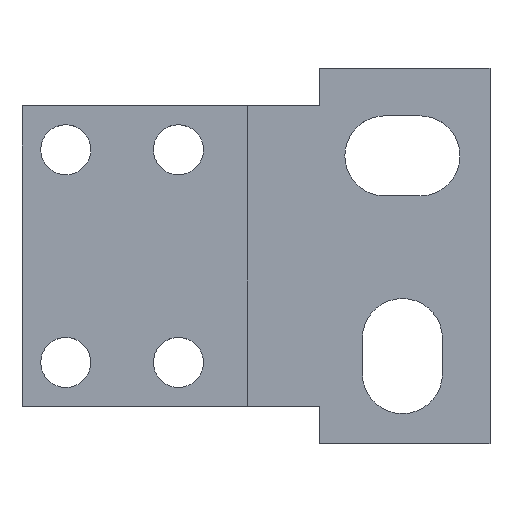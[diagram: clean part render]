
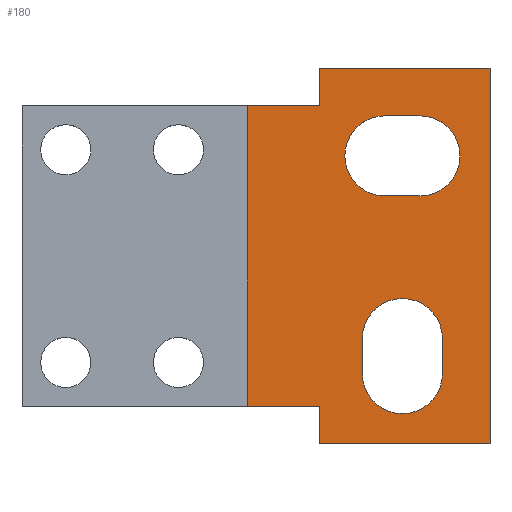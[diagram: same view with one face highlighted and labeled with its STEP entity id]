
A CAD part, top view. The second image highlights one B-rep face of the part: STEP entity #180.
In plain terms, the highlighted planar face has unit normal (0, 0, 1).
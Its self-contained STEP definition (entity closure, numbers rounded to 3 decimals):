
#1 = VERTEX_POINT ( 'NONE', #424 ) ;
#14 = VERTEX_POINT ( 'NONE', #421 ) ;
#15 = EDGE_CURVE ( 'NONE', #17, #14, #410, .T. ) ;
#17 = VERTEX_POINT ( 'NONE', #399 ) ;
#22 = VERTEX_POINT ( 'NONE', #451 ) ;
#28 = EDGE_CURVE ( 'NONE', #22, #17, #434, .T. ) ;
#32 = VERTEX_POINT ( 'NONE', #542 ) ;
#33 = EDGE_CURVE ( 'NONE', #32, #53, #472, .T. ) ;
#34 = VERTEX_POINT ( 'NONE', #541 ) ;
#35 = EDGE_CURVE ( 'NONE', #1, #34, #655, .T. ) ;
#40 = EDGE_CURVE ( 'NONE', #78, #159, #470, .T. ) ;
#44 = VERTEX_POINT ( 'NONE', #495 ) ;
#47 = EDGE_CURVE ( 'NONE', #44, #32, #502, .T. ) ;
#53 = VERTEX_POINT ( 'NONE', #561 ) ;
#68 = EDGE_CURVE ( 'NONE', #53, #22, #487, .T. ) ;
#78 = VERTEX_POINT ( 'NONE', #506 ) ;
#159 = VERTEX_POINT ( 'NONE', #688 ) ;
#167 = EDGE_CURVE ( 'NONE', #182, #191, #681, .T. ) ;
#168 = ORIENTED_EDGE ( 'NONE', *, *, #167, .F. ) ;
#169 = EDGE_CURVE ( 'NONE', #302, #182, #666, .T. ) ;
#170 = ORIENTED_EDGE ( 'NONE', *, *, #169, .F. ) ;
#171 = EDGE_CURVE ( 'NONE', #309, #302, #674, .T. ) ;
#172 = ORIENTED_EDGE ( 'NONE', *, *, #171, .F. ) ;
#173 = ORIENTED_EDGE ( 'NONE', *, *, #40, .F. ) ;
#176 = ORIENTED_EDGE ( 'NONE', *, *, #359, .F. ) ;
#177 = EDGE_LOOP ( 'NONE', ( #173, #176, #254, #257, #256 ) ) ;
#179 = EDGE_CURVE ( 'NONE', #191, #309, #731, .T. ) ;
#180 = ADVANCED_FACE ( 'NONE', ( #729, #667, #735 ), #733, .T. ) ;
#181 = ORIENTED_EDGE ( 'NONE', *, *, #179, .F. ) ;
#182 = VERTEX_POINT ( 'NONE', #663 ) ;
#191 = VERTEX_POINT ( 'NONE', #732 ) ;
#247 = ORIENTED_EDGE ( 'NONE', *, *, #287, .T. ) ;
#248 = EDGE_CURVE ( 'NONE', #159, #258, #763, .T. ) ;
#249 = ORIENTED_EDGE ( 'NONE', *, *, #28, .T. ) ;
#250 = ORIENTED_EDGE ( 'NONE', *, *, #313, .T. ) ;
#251 = ORIENTED_EDGE ( 'NONE', *, *, #289, .T. ) ;
#252 = ORIENTED_EDGE ( 'NONE', *, *, #33, .T. ) ;
#254 = ORIENTED_EDGE ( 'NONE', *, *, #35, .F. ) ;
#255 = ORIENTED_EDGE ( 'NONE', *, *, #68, .T. ) ;
#256 = ORIENTED_EDGE ( 'NONE', *, *, #248, .F. ) ;
#257 = ORIENTED_EDGE ( 'NONE', *, *, #261, .F. ) ;
#258 = VERTEX_POINT ( 'NONE', #802 ) ;
#259 = ORIENTED_EDGE ( 'NONE', *, *, #47, .T. ) ;
#260 = EDGE_LOOP ( 'NONE', ( #247, #250, #259, #252, #255, #249, #262, #251 ) ) ;
#261 = EDGE_CURVE ( 'NONE', #258, #1, #854, .T. ) ;
#262 = ORIENTED_EDGE ( 'NONE', *, *, #15, .T. ) ;
#285 = VERTEX_POINT ( 'NONE', #969 ) ;
#287 = EDGE_CURVE ( 'NONE', #285, #316, #936, .T. ) ;
#289 = EDGE_CURVE ( 'NONE', #14, #285, #963, .T. ) ;
#298 = EDGE_LOOP ( 'NONE', ( #181, #168, #170, #172 ) ) ;
#302 = VERTEX_POINT ( 'NONE', #937 ) ;
#309 = VERTEX_POINT ( 'NONE', #987 ) ;
#313 = EDGE_CURVE ( 'NONE', #316, #44, #989, .T. ) ;
#316 = VERTEX_POINT ( 'NONE', #1004 ) ;
#359 = EDGE_CURVE ( 'NONE', #34, #78, #1007, .T. ) ;
#399 = CARTESIAN_POINT ( 'NONE',  ( 0., 7.5, 0. ) ) ;
#400 = DIRECTION ( 'NONE',  ( -1., 0., 0. ) ) ;
#401 = VECTOR ( 'NONE', #400, 1000. ) ;
#409 = CARTESIAN_POINT ( 'NONE',  ( 0., 7.5, 0. ) ) ;
#410 = LINE ( 'NONE', #409, #401 ) ;
#421 = CARTESIAN_POINT ( 'NONE',  ( -6.8, 7.5, 0. ) ) ;
#424 = CARTESIAN_POINT ( 'NONE',  ( -1.2, 4., 0. ) ) ;
#431 = DIRECTION ( 'NONE',  ( 0., 1., 0. ) ) ;
#432 = VECTOR ( 'NONE', #431, 1000. ) ;
#433 = CARTESIAN_POINT ( 'NONE',  ( 0., -7.5, 0. ) ) ;
#434 = LINE ( 'NONE', #433, #432 ) ;
#451 = CARTESIAN_POINT ( 'NONE',  ( 0., -7.5, 0. ) ) ;
#469 = CARTESIAN_POINT ( 'NONE',  ( -2.8, 4., 0. ) ) ;
#470 = CIRCLE ( 'NONE', #622, 1.6 ) ;
#471 = AXIS2_PLACEMENT_3D ( 'NONE', #469, #474, #485 ) ;
#472 = LINE ( 'NONE', #611, #493 ) ;
#474 = DIRECTION ( 'NONE',  ( 0., 0., 1. ) ) ;
#485 = DIRECTION ( 'NONE',  ( 1., 0., 0. ) ) ;
#487 = LINE ( 'NONE', #547, #546 ) ;
#490 = DIRECTION ( 'NONE',  ( 1., 0., 0. ) ) ;
#491 = DIRECTION ( 'NONE',  ( 0., 0., 1. ) ) ;
#493 = VECTOR ( 'NONE', #606, 1000. ) ;
#495 = CARTESIAN_POINT ( 'NONE',  ( -9.7, -6., 0. ) ) ;
#499 = DIRECTION ( 'NONE',  ( 1., 0., 0. ) ) ;
#500 = VECTOR ( 'NONE', #499, 1000. ) ;
#501 = CARTESIAN_POINT ( 'NONE',  ( -6.8, -6., 0. ) ) ;
#502 = LINE ( 'NONE', #501, #500 ) ;
#506 = CARTESIAN_POINT ( 'NONE',  ( -4.2, 5.6, 0. ) ) ;
#541 = CARTESIAN_POINT ( 'NONE',  ( -2.8, 5.6, 0. ) ) ;
#542 = CARTESIAN_POINT ( 'NONE',  ( -6.8, -6., 0. ) ) ;
#544 = CARTESIAN_POINT ( 'NONE',  ( -4.2, 4., 0. ) ) ;
#545 = DIRECTION ( 'NONE',  ( 1., 0., 0. ) ) ;
#546 = VECTOR ( 'NONE', #545, 1000. ) ;
#547 = CARTESIAN_POINT ( 'NONE',  ( 0., -7.5, 0. ) ) ;
#561 = CARTESIAN_POINT ( 'NONE',  ( -6.8, -7.5, 0. ) ) ;
#606 = DIRECTION ( 'NONE',  ( 0., -1., 0. ) ) ;
#611 = CARTESIAN_POINT ( 'NONE',  ( -6.8, -7.5, 0. ) ) ;
#622 = AXIS2_PLACEMENT_3D ( 'NONE', #544, #491, #490 ) ;
#655 = CIRCLE ( 'NONE', #471, 1.6 ) ;
#659 = DIRECTION ( 'NONE',  ( 1., 0., 0. ) ) ;
#660 = DIRECTION ( 'NONE',  ( 0., 0., 1. ) ) ;
#661 = AXIS2_PLACEMENT_3D ( 'NONE', #727, #726, #725 ) ;
#662 = DIRECTION ( 'NONE',  ( 1., 0., 0. ) ) ;
#663 = CARTESIAN_POINT ( 'NONE',  ( -1.9, -4.7, 0. ) ) ;
#664 = DIRECTION ( 'NONE',  ( 0., -1., 0. ) ) ;
#665 = CARTESIAN_POINT ( 'NONE',  ( -5.1, -3.3, 0. ) ) ;
#666 = CIRCLE ( 'NONE', #668, 1.6 ) ;
#667 = FACE_BOUND ( 'NONE', #177, .T. ) ;
#668 = AXIS2_PLACEMENT_3D ( 'NONE', #673, #660, #659 ) ;
#673 = CARTESIAN_POINT ( 'NONE',  ( -3.5, -4.7, 0. ) ) ;
#674 = LINE ( 'NONE', #665, #734 ) ;
#675 = CARTESIAN_POINT ( 'NONE',  ( -3.5, -3.3, 0. ) ) ;
#678 = VECTOR ( 'NONE', #704, 1000. ) ;
#681 = LINE ( 'NONE', #705, #678 ) ;
#682 = AXIS2_PLACEMENT_3D ( 'NONE', #675, #736, #662 ) ;
#688 = CARTESIAN_POINT ( 'NONE',  ( -4.2, 2.4, 0. ) ) ;
#704 = DIRECTION ( 'NONE',  ( 0., 1., 0. ) ) ;
#705 = CARTESIAN_POINT ( 'NONE',  ( -1.9, -3.3, 0. ) ) ;
#725 = DIRECTION ( 'NONE',  ( 1., 0., 0. ) ) ;
#726 = DIRECTION ( 'NONE',  ( 0., 0., 1. ) ) ;
#727 = CARTESIAN_POINT ( 'NONE',  ( -6.8, 7.5, 0. ) ) ;
#729 = FACE_BOUND ( 'NONE', #298, .T. ) ;
#731 = CIRCLE ( 'NONE', #682, 1.6 ) ;
#732 = CARTESIAN_POINT ( 'NONE',  ( -1.9, -3.3, 0. ) ) ;
#733 = PLANE ( 'NONE',  #661 ) ;
#734 = VECTOR ( 'NONE', #664, 1000. ) ;
#735 = FACE_OUTER_BOUND ( 'NONE', #260, .T. ) ;
#736 = DIRECTION ( 'NONE',  ( 0., 0., 1. ) ) ;
#763 = LINE ( 'NONE', #799, #798 ) ;
#798 = VECTOR ( 'NONE', #803, 1000. ) ;
#799 = CARTESIAN_POINT ( 'NONE',  ( -4.2, 2.4, 0. ) ) ;
#802 = CARTESIAN_POINT ( 'NONE',  ( -2.8, 2.4, 0. ) ) ;
#803 = DIRECTION ( 'NONE',  ( 1., 0., 0. ) ) ;
#847 = DIRECTION ( 'NONE',  ( 1., 0., 0. ) ) ;
#848 = DIRECTION ( 'NONE',  ( 0., 0., 1. ) ) ;
#849 = CARTESIAN_POINT ( 'NONE',  ( -2.8, 4., 0. ) ) ;
#853 = AXIS2_PLACEMENT_3D ( 'NONE', #849, #848, #847 ) ;
#854 = CIRCLE ( 'NONE', #853, 1.6 ) ;
#904 = DIRECTION ( 'NONE',  ( 0., -1., 0. ) ) ;
#905 = VECTOR ( 'NONE', #904, 1000. ) ;
#936 = LINE ( 'NONE', #1015, #1014 ) ;
#937 = CARTESIAN_POINT ( 'NONE',  ( -5.1, -4.7, 0. ) ) ;
#962 = CARTESIAN_POINT ( 'NONE',  ( -6.8, 7.5, 0. ) ) ;
#963 = LINE ( 'NONE', #962, #905 ) ;
#966 = DIRECTION ( 'NONE',  ( -1., 0., 0. ) ) ;
#969 = CARTESIAN_POINT ( 'NONE',  ( -6.8, 6., 0. ) ) ;
#987 = CARTESIAN_POINT ( 'NONE',  ( -5.1, -3.3, 0. ) ) ;
#988 = CARTESIAN_POINT ( 'NONE',  ( -9.7, 6., 0. ) ) ;
#989 = LINE ( 'NONE', #988, #1002 ) ;
#1001 = DIRECTION ( 'NONE',  ( 0., -1., 0. ) ) ;
#1002 = VECTOR ( 'NONE', #1001, 1000. ) ;
#1004 = CARTESIAN_POINT ( 'NONE',  ( -9.7, 6., 0. ) ) ;
#1007 = LINE ( 'NONE', #1021, #1020 ) ;
#1014 = VECTOR ( 'NONE', #966, 1000. ) ;
#1015 = CARTESIAN_POINT ( 'NONE',  ( -6.8, 6., 0. ) ) ;
#1019 = DIRECTION ( 'NONE',  ( -1., 0., 0. ) ) ;
#1020 = VECTOR ( 'NONE', #1019, 1000. ) ;
#1021 = CARTESIAN_POINT ( 'NONE',  ( -4.2, 5.6, 0. ) ) ;
